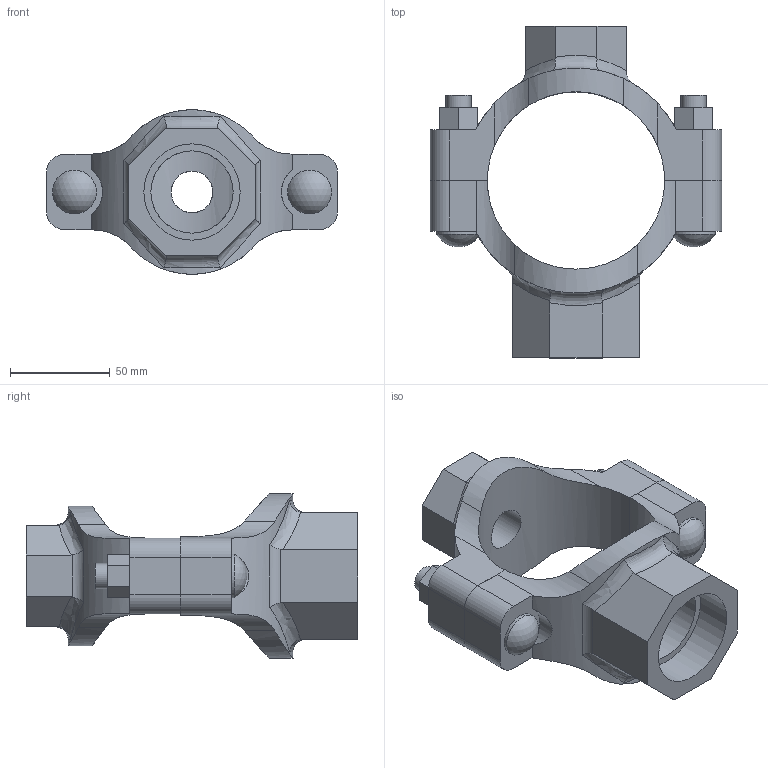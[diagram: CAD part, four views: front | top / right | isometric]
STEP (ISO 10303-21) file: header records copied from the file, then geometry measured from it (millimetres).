
FILE_DESCRIPTION(/* description */ ('VIC MECH-T BRANCH OUTLET CROSS STYLE 920N (THD)','CAx-IF Rec.Pracs.---Representation and Presentation of Product Manufacturing Information (PMI)---4.0---2014-10-13'),/* implementation_level */ '2;1');
FILE_NAME(/* name */ 'C:\Users\Vjadhav\AppData\Roaming\Autodesk\ApplicationPlugins\Back Up\Victaulic_IPS_Mechanical-Cross Outlet_Style 920N (FPT)\Victaulic_IPS_Mechanical-Cross Outlet_03.0x0.75x01.5 (80x20x40).stp',/* time_stamp */ '2020-08-06T18:57:23+05:00',/* author */ ('Vjadhav'),/* organization */ ('Victaulic'),/* preprocessor_version */ 'ST-DEVELOPER v17.2',/* originating_system */ 'Autodesk Inventor 2019',/* authorisation */ '');
FILE_SCHEMA (('AP242_MANAGED_MODEL_BASED_3D_ENGINEERING_MIM_LF { 1 0 10303 442 1 1 4 }'));
Length unit declared in the file: inch
Products named in the file (3): 920NT-03.0x0.75x01.5; 920NT-03.0x0.75; 920NT-03.0x01.5
Assembly tree (2 placements, depth 2):
  920NT-03.0x0.75x01.5
    920NT-03.0x0.75
    920NT-03.0x01.5
Bounding box: 146.05 x 166.37 x 82.55 mm (x, y, z)
Volume: 343283.8 mm3; surface area: 80068.4 mm2
Topology: 2 solids, 2 shells, 132 faces, 350 edges, 236 vertices
Faces by surface type: plane 68, cylinder 50, bspline 8, torus 4, sphere 2
Full cylindrical faces by diameter (mm): 12.7 x4, 20.93 x1, 21.982 x2, 26.67 x1, 41.275 x1, 48.26 x1
Entity records: 5132 total; most frequent: CARTESIAN_POINT 1619, ORIENTED_EDGE 700, DIRECTION 648, EDGE_CURVE 350, VERTEX_POINT 236, AXIS2_PLACEMENT_3D 231, LINE 186, VECTOR 186
